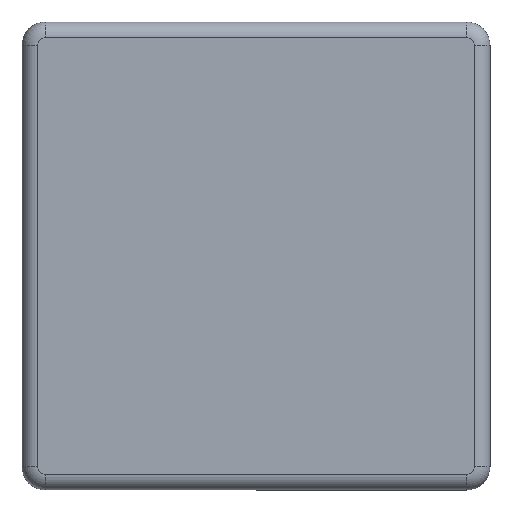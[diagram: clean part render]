
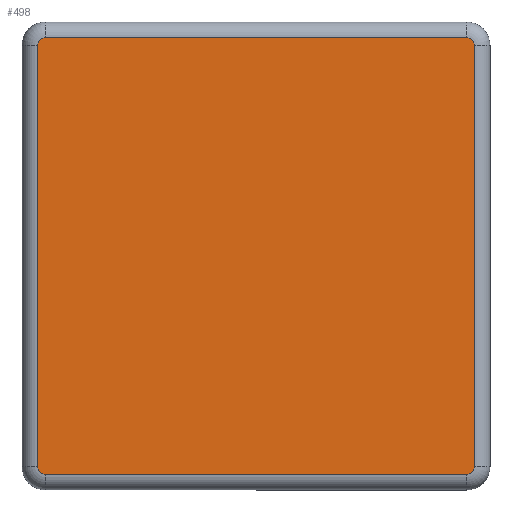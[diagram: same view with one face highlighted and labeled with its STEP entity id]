
A CAD part, front view. The second image highlights one B-rep face of the part: STEP entity #498.
In plain terms, the highlighted planar face has unit normal (0, -1, 0).
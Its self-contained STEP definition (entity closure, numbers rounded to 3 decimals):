
#4 = ORIENTED_EDGE ( 'NONE', *, *, #845, .T. ) ;
#5 = VERTEX_POINT ( 'NONE', #1105 ) ;
#16 = LINE ( 'NONE', #1119, #981 ) ;
#33 = CIRCLE ( 'NONE', #485, 1. ) ;
#51 = CARTESIAN_POINT ( 'NONE',  ( 27., -4., -27. ) ) ;
#76 = CARTESIAN_POINT ( 'NONE',  ( -27., -4., 28. ) ) ;
#81 = DIRECTION ( 'NONE',  ( 0., 0., 1. ) ) ;
#99 = EDGE_CURVE ( 'NONE', #757, #5, #1039, .T. ) ;
#108 = ORIENTED_EDGE ( 'NONE', *, *, #676, .T. ) ;
#109 = DIRECTION ( 'NONE',  ( 0., 0., -1. ) ) ;
#135 = CARTESIAN_POINT ( 'NONE',  ( 27., -4., -28. ) ) ;
#136 = DIRECTION ( 'NONE',  ( 0., 0., 1. ) ) ;
#153 = DIRECTION ( 'NONE',  ( 0., 0., 1. ) ) ;
#230 = VECTOR ( 'NONE', #459, 1000. ) ;
#232 = DIRECTION ( 'NONE',  ( 1., 0., 0. ) ) ;
#233 = CARTESIAN_POINT ( 'NONE',  ( 27., -4., -28. ) ) ;
#248 = EDGE_CURVE ( 'NONE', #1114, #858, #389, .T. ) ;
#253 = CIRCLE ( 'NONE', #392, 1. ) ;
#254 = CARTESIAN_POINT ( 'NONE',  ( -27., -4., -27. ) ) ;
#296 = ORIENTED_EDGE ( 'NONE', *, *, #934, .T. ) ;
#354 = DIRECTION ( 'NONE',  ( 0., 0., 1. ) ) ;
#360 = PLANE ( 'NONE',  #862 ) ;
#375 = LINE ( 'NONE', #1146, #1031 ) ;
#376 = DIRECTION ( 'NONE',  ( 0., -1., 0. ) ) ;
#389 = CIRCLE ( 'NONE', #800, 1. ) ;
#390 = EDGE_CURVE ( 'NONE', #880, #757, #16, .T. ) ;
#392 = AXIS2_PLACEMENT_3D ( 'NONE', #930, #376, #1009 ) ;
#440 = ORIENTED_EDGE ( 'NONE', *, *, #248, .T. ) ;
#459 = DIRECTION ( 'NONE',  ( -1., 0., 0. ) ) ;
#485 = AXIS2_PLACEMENT_3D ( 'NONE', #551, #1176, #643 ) ;
#498 = ADVANCED_FACE ( 'NONE', ( #631 ), #360, .F. ) ;
#535 = CARTESIAN_POINT ( 'NONE',  ( 28., -4., 27. ) ) ;
#551 = CARTESIAN_POINT ( 'NONE',  ( 27., -4., 27. ) ) ;
#583 = EDGE_CURVE ( 'NONE', #5, #1114, #1040, .T. ) ;
#597 = ORIENTED_EDGE ( 'NONE', *, *, #667, .T. ) ;
#615 = CARTESIAN_POINT ( 'NONE',  ( 28., -4., -27. ) ) ;
#631 = FACE_OUTER_BOUND ( 'NONE', #1022, .T. ) ;
#632 = VERTEX_POINT ( 'NONE', #1165 ) ;
#643 = DIRECTION ( 'NONE',  ( 0., 0., 1. ) ) ;
#651 = DIRECTION ( 'NONE',  ( 0., 1., 0. ) ) ;
#667 = EDGE_CURVE ( 'NONE', #1193, #899, #33, .T. ) ;
#676 = EDGE_CURVE ( 'NONE', #899, #632, #745, .T. ) ;
#722 = DIRECTION ( 'NONE',  ( 0., -1., 0. ) ) ;
#745 = LINE ( 'NONE', #76, #230 ) ;
#757 = VERTEX_POINT ( 'NONE', #796 ) ;
#771 = AXIS2_PLACEMENT_3D ( 'NONE', #254, #910, #354 ) ;
#796 = CARTESIAN_POINT ( 'NONE',  ( -28., -4., -27. ) ) ;
#800 = AXIS2_PLACEMENT_3D ( 'NONE', #51, #722, #153 ) ;
#820 = VECTOR ( 'NONE', #232, 1000. ) ;
#827 = ORIENTED_EDGE ( 'NONE', *, *, #583, .T. ) ;
#845 = EDGE_CURVE ( 'NONE', #858, #1193, #375, .T. ) ;
#858 = VERTEX_POINT ( 'NONE', #615 ) ;
#862 = AXIS2_PLACEMENT_3D ( 'NONE', #1086, #651, #81 ) ;
#880 = VERTEX_POINT ( 'NONE', #1095 ) ;
#899 = VERTEX_POINT ( 'NONE', #1003 ) ;
#910 = DIRECTION ( 'NONE',  ( 0., -1., 0. ) ) ;
#930 = CARTESIAN_POINT ( 'NONE',  ( -27., -4., 27. ) ) ;
#934 = EDGE_CURVE ( 'NONE', #632, #880, #253, .T. ) ;
#949 = ORIENTED_EDGE ( 'NONE', *, *, #390, .T. ) ;
#981 = VECTOR ( 'NONE', #109, 1000. ) ;
#1003 = CARTESIAN_POINT ( 'NONE',  ( 27., -4., 28. ) ) ;
#1009 = DIRECTION ( 'NONE',  ( 0., 0., 1. ) ) ;
#1022 = EDGE_LOOP ( 'NONE', ( #949, #1080, #827, #440, #4, #597, #108, #296 ) ) ;
#1031 = VECTOR ( 'NONE', #136, 1000. ) ;
#1039 = CIRCLE ( 'NONE', #771, 1. ) ;
#1040 = LINE ( 'NONE', #135, #820 ) ;
#1080 = ORIENTED_EDGE ( 'NONE', *, *, #99, .T. ) ;
#1086 = CARTESIAN_POINT ( 'NONE',  ( 0., -4., 0. ) ) ;
#1095 = CARTESIAN_POINT ( 'NONE',  ( -28., -4., 27. ) ) ;
#1105 = CARTESIAN_POINT ( 'NONE',  ( -27., -4., -28. ) ) ;
#1114 = VERTEX_POINT ( 'NONE', #233 ) ;
#1119 = CARTESIAN_POINT ( 'NONE',  ( -28., -4., -27. ) ) ;
#1146 = CARTESIAN_POINT ( 'NONE',  ( 28., -4., 27. ) ) ;
#1165 = CARTESIAN_POINT ( 'NONE',  ( -27., -4., 28. ) ) ;
#1176 = DIRECTION ( 'NONE',  ( 0., -1., 0. ) ) ;
#1193 = VERTEX_POINT ( 'NONE', #535 ) ;
